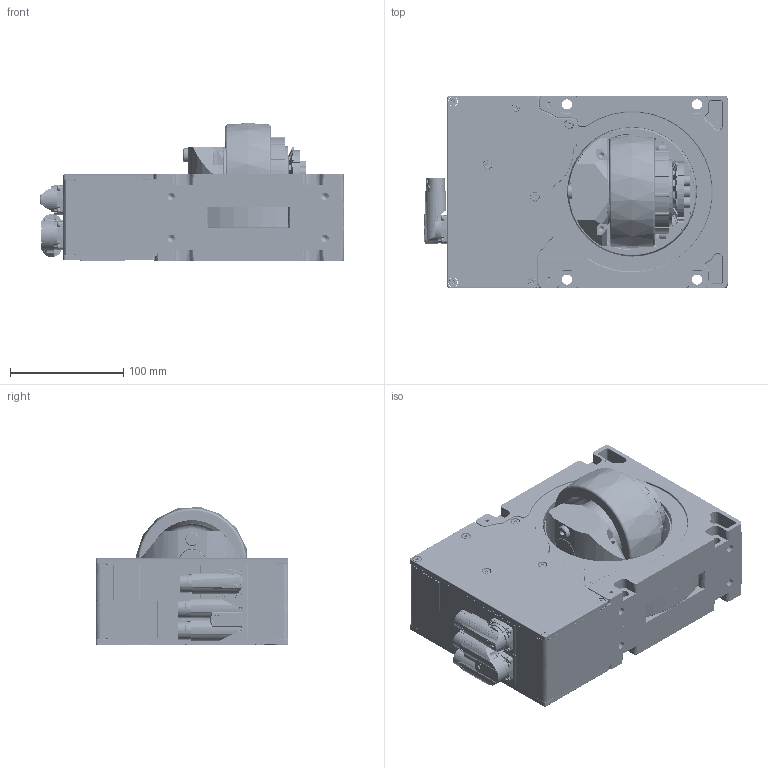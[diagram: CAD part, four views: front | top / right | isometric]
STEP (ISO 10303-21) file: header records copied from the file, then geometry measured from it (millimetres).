
FILE_DESCRIPTION(/* description */ (''),/* implementation_level */ '2;1');
FILE_NAME(/* name */ 'C:\CE-F\CIDEON Conversion Engine\sapworkdir\00505681AE0A1EEDB4F25F7BC2A770B8\in\8315120051_ipt_400.step',/* time_stamp */ '2023-04-05T11:20:46+02:00',/* author */ (''),/* organization */ (''),/* preprocessor_version */ 'ST-DEVELOPER v18.1',/* originating_system */ 'Autodesk Inventor 2021',/* authorisation */ '');
FILE_SCHEMA (('AUTOMOTIVE_DESIGN { 1 0 10303 214 3 1 1 }'));
Products named in the file (1): 8315120051
Bounding box: 269.22 x 170 x 122.01 mm (x, y, z)
Volume: 3172190.3 mm3; surface area: 327399.8 mm2
Topology: 5 solids, 101 shells, 13407 faces, 33510 edges, 20609 vertices
Faces by surface type: plane 4626, bspline 3671, cylinder 2746, torus 1157, cone 839, sphere 368
Full cylindrical faces by diameter (mm): 0.3 x36, 1 x43, 1.2 x6, 1.5 x4, 1.6 x1, 1.8 x4, 1.9 x1, 2 x6, 2.013 x4, 2.05 x1, 2.3 x4, 2.459 x1, 2.5 x10, 2.6 x8, 2.7 x10, 2.8 x2, 3 x12, 3.05 x2, 3.06 x1, 3.1 x5, 3.2 x2, 3.242 x8, 3.4 x11, 3.5 x1, 4 x33, 4.2 x2, 4.5 x18, 4.7 x2, 4.8 x2, 5 x10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
Entity records: 637113 total; most frequent: CARTESIAN_POINT 319596, ORIENTED_EDGE 66480, DIRECTION 58061, EDGE_CURVE 33240, AXIS2_PLACEMENT_3D 21542, VERTEX_POINT 20608, LINE 14977, VECTOR 14977
